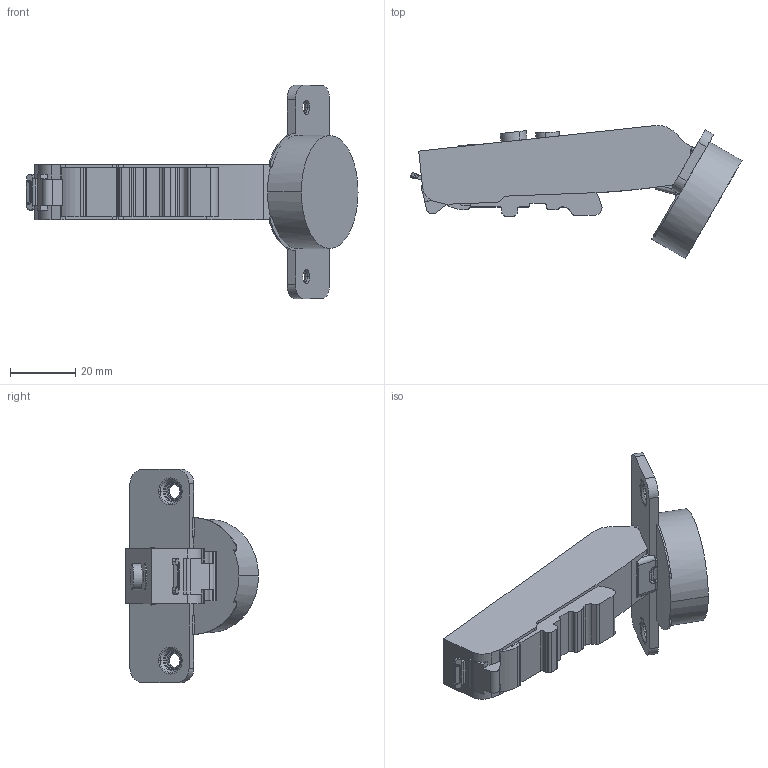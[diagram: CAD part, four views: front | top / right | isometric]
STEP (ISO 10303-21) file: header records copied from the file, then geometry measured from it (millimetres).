
FILE_DESCRIPTION (( 'STEP AP203' ), '1' );
FILE_NAME ('C81W876FAB DTC 3D CLOSE.STEP', '2024-07-22T01:13:48', ( '微软用户' ), ( '微软中国' ), 'SwSTEP 2.0', 'SolidWorks 2021', '' );
FILE_SCHEMA (( 'CONFIG_CONTROL_DESIGN' ));
Length unit declared in the file: millimetre
Products named in the file (1): C81W876FAB DTC 3D CLOSE
Bounding box: 102.1 x 40.92 x 65.6 mm (x, y, z)
Volume: 42612.5 mm3; surface area: 12269.3 mm2
Topology: 1 solids, 3 shells, 349 faces, 979 edges, 642 vertices
Faces by surface type: plane 160, cylinder 124, bspline 31, torus 30, cone 4
Entity records: 12289 total; most frequent: CARTESIAN_POINT 3285, ORIENTED_EDGE 1958, DIRECTION 1791, EDGE_CURVE 979, VERTEX_POINT 642, AXIS2_PLACEMENT_3D 611, VECTOR 569, LINE 569
